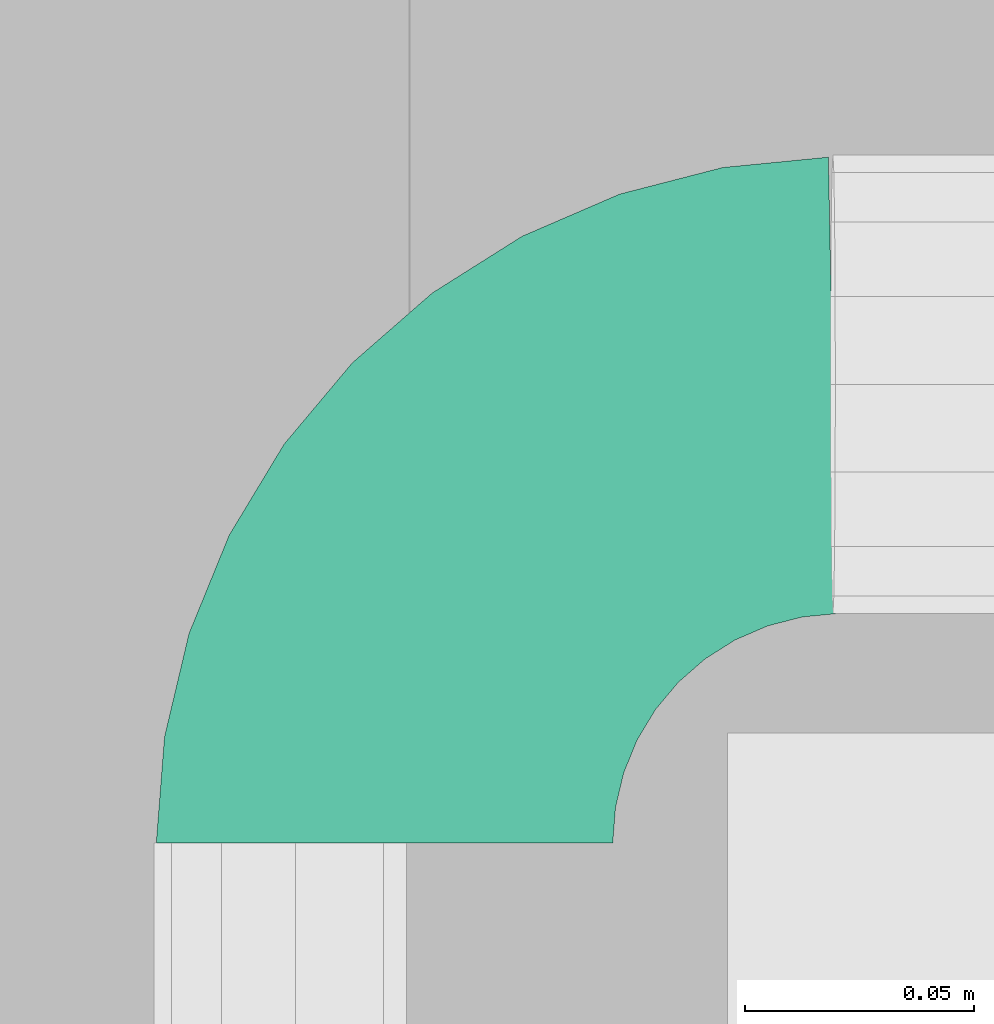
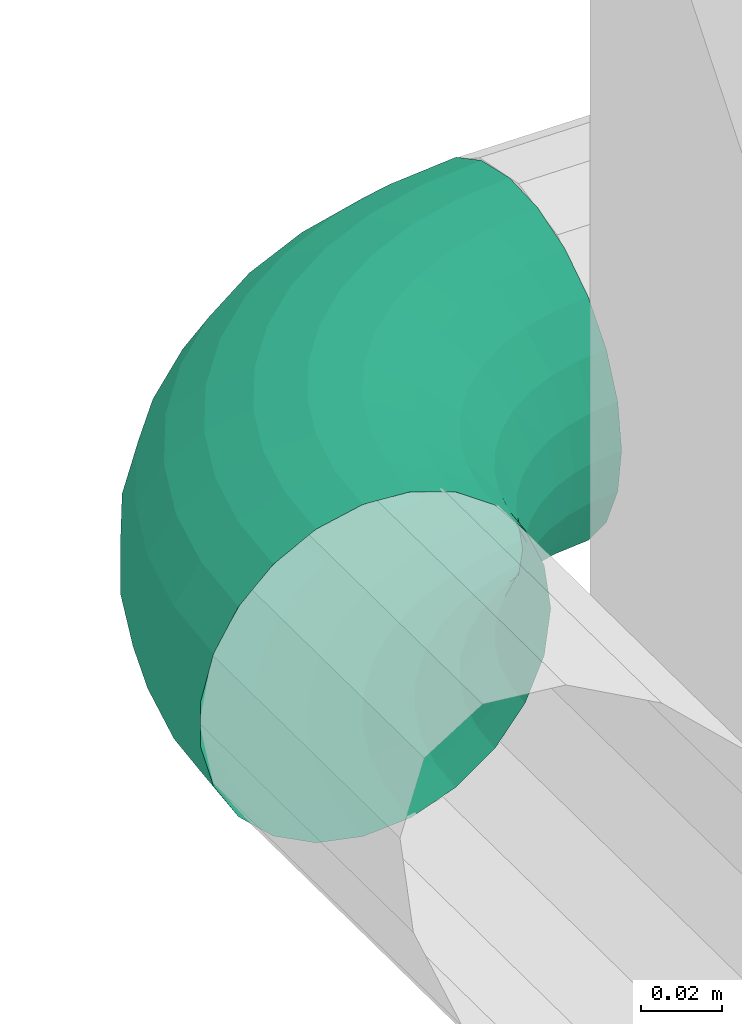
# One storey, part 82 of 106: 1 flow fitting.
"""IFC2X3 building model written with IfcOpenShell, lengths in metres."""

from ifc_helpers import new_model, entity, si_unit, converted_unit, derived_unit, money_unit, direction, frame, origin_with_axes, place, context, subcontext, project, spatial, open_shell, surface_model, material, type_object, element, save


model = new_model("IFC2X3")

# Units and contexts
model_context = context("Model", 3, precision=1e-05, world=origin_with_axes(), true_north=direction((0.0, 1.0)))
body_context = subcontext(model_context, "Body", "Model", "MODEL_VIEW", scale=1.0)
ifc_project = project(units=[si_unit("LENGTHUNIT", "METRE"), si_unit("AREAUNIT", "SQUARE_METRE"), si_unit("VOLUMEUNIT", "CUBIC_METRE"), si_unit("ABSORBEDDOSEUNIT", "GRAY"), si_unit("AMOUNTOFSUBSTANCEUNIT", "MOLE"), si_unit("DOSEEQUIVALENTUNIT", "SIEVERT"), si_unit("ELECTRICCAPACITANCEUNIT", "FARAD"), si_unit("ELECTRICCHARGEUNIT", "COULOMB"), si_unit("ELECTRICCONDUCTANCEUNIT", "SIEMENS"), si_unit("ELECTRICCURRENTUNIT", "AMPERE"), si_unit("ELECTRICRESISTANCEUNIT", "OHM"), si_unit("ELECTRICVOLTAGEUNIT", "VOLT"), si_unit("ENERGYUNIT", "JOULE"), si_unit("FORCEUNIT", "NEWTON"), si_unit("FREQUENCYUNIT", "HERTZ"), si_unit("ILLUMINANCEUNIT", "LUX"), si_unit("INDUCTANCEUNIT", "HENRY"), si_unit("LUMINOUSFLUXUNIT", "LUMEN"), si_unit("LUMINOUSINTENSITYUNIT", "CANDELA"), si_unit("MAGNETICFLUXDENSITYUNIT", "TESLA"), si_unit("MAGNETICFLUXUNIT", "WEBER"), si_unit("MASSUNIT", "GRAM"), converted_unit("PLANEANGLEUNIT", "degree", entity("IfcReal", 0.0174532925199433), si_unit("PLANEANGLEUNIT", "RADIAN"), dimensions=[0, 0, 0, 0, 0, 0, 0]), si_unit("POWERUNIT", "WATT"), si_unit("PRESSUREUNIT", "PASCAL"), si_unit("RADIOACTIVITYUNIT", "BECQUEREL"), si_unit("SOLIDANGLEUNIT", "STERADIAN"), si_unit("THERMODYNAMICTEMPERATUREUNIT", "KELVIN"), si_unit("TIMEUNIT", "SECOND"), derived_unit("ACCELERATIONUNIT", [(si_unit("LENGTHUNIT", "METRE"), 1), (si_unit("TIMEUNIT", "SECOND"), -2)]), derived_unit("ANGULARVELOCITYUNIT", [(converted_unit("PLANEANGLEUNIT", "degree", entity("IfcReal", 0.0174532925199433), si_unit("PLANEANGLEUNIT", "RADIAN"), dimensions=[0, 0, 0, 0, 0, 0, 0]), 1), (si_unit("TIMEUNIT", "SECOND"), -1)]), derived_unit("CURVATUREUNIT", [(converted_unit("PLANEANGLEUNIT", "degree", entity("IfcReal", 0.0174532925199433), si_unit("PLANEANGLEUNIT", "RADIAN"), dimensions=[0, 0, 0, 0, 0, 0, 0]), 1), (si_unit("LENGTHUNIT", "METRE"), -1)]), derived_unit("DYNAMICVISCOSITYUNIT", [(si_unit("PRESSUREUNIT", "PASCAL"), 1), (si_unit("TIMEUNIT", "SECOND"), 1)]), derived_unit("HEATFLUXDENSITYUNIT", [(si_unit("POWERUNIT", "WATT"), 1), (si_unit("LENGTHUNIT", "METRE"), -2)]), derived_unit("HEATINGVALUEUNIT", [(si_unit("ENERGYUNIT", "JOULE"), 1), (si_unit("MASSUNIT", "GRAM"), -1)]), derived_unit("INTEGERCOUNTRATEUNIT", [(si_unit("TIMEUNIT", "SECOND"), -1)]), derived_unit("IONCONCENTRATIONUNIT", [(si_unit("MASSUNIT", "GRAM"), 1), (si_unit("VOLUMEUNIT", "CUBIC_METRE"), -1)]), derived_unit("ISOTHERMALMOISTURECAPACITYUNIT", [(si_unit("VOLUMEUNIT", "CUBIC_METRE"), 1), (si_unit("MASSUNIT", "GRAM"), -1)]), derived_unit("KINEMATICVISCOSITYUNIT", [(si_unit("AREAUNIT", "SQUARE_METRE"), 1), (si_unit("TIMEUNIT", "SECOND"), -1)]), derived_unit("LINEARFORCEUNIT", [(si_unit("FORCEUNIT", "NEWTON"), 1), (si_unit("LENGTHUNIT", "METRE"), -1)]), derived_unit("LINEARMOMENTUNIT", [(si_unit("FORCEUNIT", "NEWTON"), 1), (si_unit("LENGTHUNIT", "METRE"), -1)]), derived_unit("LINEARSTIFFNESSUNIT", [(si_unit("FORCEUNIT", "NEWTON"), 1), (si_unit("LENGTHUNIT", "METRE"), -1)]), derived_unit("LINEARVELOCITYUNIT", [(si_unit("LENGTHUNIT", "METRE"), 1), (si_unit("TIMEUNIT", "SECOND"), -1)]), derived_unit("LUMINOUSINTENSITYDISTRIBUTIONUNIT", [(si_unit("LUMINOUSINTENSITYUNIT", "CANDELA"), 1), (si_unit("LUMINOUSFLUXUNIT", "LUMEN"), -1)]), derived_unit("MASSDENSITYUNIT", [(si_unit("MASSUNIT", "GRAM"), 1), (si_unit("VOLUMEUNIT", "CUBIC_METRE"), -1)]), derived_unit("MASSFLOWRATEUNIT", [(si_unit("MASSUNIT", "GRAM"), 1), (si_unit("TIMEUNIT", "SECOND"), -1)]), derived_unit("MASSPERLENGTHUNIT", [(si_unit("MASSUNIT", "GRAM"), 1), (si_unit("LENGTHUNIT", "METRE"), -1)]), derived_unit("MODULUSOFELASTICITYUNIT", [(si_unit("FORCEUNIT", "NEWTON"), 1), (si_unit("AREAUNIT", "SQUARE_METRE"), -1)]), derived_unit("MODULUSOFLINEARSUBGRADEREACTIONUNIT", [(si_unit("FORCEUNIT", "NEWTON"), 1), (si_unit("LENGTHUNIT", "METRE"), -2)]), derived_unit("MODULUSOFROTATIONALSUBGRADEREACTIONUNIT", [(si_unit("FORCEUNIT", "NEWTON"), 1), (si_unit("LENGTHUNIT", "METRE"), 1)]), derived_unit("MODULUSOFSUBGRADEREACTIONUNIT", [(si_unit("FORCEUNIT", "NEWTON"), 1), (si_unit("VOLUMEUNIT", "CUBIC_METRE"), -1)]), derived_unit("MOISTUREDIFFUSIVITYUNIT", [(si_unit("VOLUMEUNIT", "CUBIC_METRE"), 1), (si_unit("TIMEUNIT", "SECOND"), -1)]), derived_unit("MOLECULARWEIGHTUNIT", [(si_unit("MASSUNIT", "GRAM"), 1), (si_unit("AMOUNTOFSUBSTANCEUNIT", "MOLE"), -1)]), derived_unit("PLANARFORCEUNIT", [(si_unit("FORCEUNIT", "NEWTON"), 1), (si_unit("LENGTHUNIT", "METRE"), -2)]), derived_unit("ROTATIONALFREQUENCYUNIT", [(si_unit("TIMEUNIT", "SECOND"), -1)]), derived_unit("ROTATIONALMASSUNIT", [(si_unit("MASSUNIT", "GRAM"), 1), (si_unit("LENGTHUNIT", "METRE"), 2)]), derived_unit("ROTATIONALSTIFFNESSUNIT", [(si_unit("FORCEUNIT", "NEWTON"), 1), (si_unit("LENGTHUNIT", "METRE"), 1), (converted_unit("PLANEANGLEUNIT", "degree", entity("IfcReal", 0.0174532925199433), si_unit("PLANEANGLEUNIT", "RADIAN"), dimensions=[0, 0, 0, 0, 0, 0, 0]), -1)]), derived_unit("SECTIONAREAINTEGRALUNIT", [(si_unit("LENGTHUNIT", "METRE"), 5)]), derived_unit("SECTIONMODULUSUNIT", [(si_unit("LENGTHUNIT", "METRE"), 3)]), derived_unit("SHEARMODULUSUNIT", [(si_unit("FORCEUNIT", "NEWTON"), 1), (si_unit("AREAUNIT", "SQUARE_METRE"), -1)]), derived_unit("SOUNDPOWERUNIT", [(si_unit("ENERGYUNIT", "JOULE"), 1), (si_unit("TIMEUNIT", "SECOND"), -1)]), derived_unit("SPECIFICHEATCAPACITYUNIT", [(si_unit("FORCEUNIT", "NEWTON"), 1), (si_unit("MASSUNIT", "GRAM"), -1), (si_unit("THERMODYNAMICTEMPERATUREUNIT", "KELVIN"), -1)]), derived_unit("TEMPERATUREGRADIENTUNIT", [(si_unit("THERMODYNAMICTEMPERATUREUNIT", "KELVIN"), 1), (si_unit("LENGTHUNIT", "METRE"), -1)]), derived_unit("THERMALADMITTANCEUNIT", [(si_unit("POWERUNIT", "WATT"), 1), (si_unit("AREAUNIT", "SQUARE_METRE"), -1), (si_unit("THERMODYNAMICTEMPERATUREUNIT", "KELVIN"), -1)]), derived_unit("THERMALCONDUCTANCEUNIT", [(si_unit("POWERUNIT", "WATT"), 1), (si_unit("LENGTHUNIT", "METRE"), -1), (si_unit("THERMODYNAMICTEMPERATUREUNIT", "KELVIN"), -1)]), derived_unit("THERMALEXPANSIONCOEFFICIENTUNIT", [(si_unit("THERMODYNAMICTEMPERATUREUNIT", "KELVIN"), -1)]), derived_unit("THERMALRESISTANCEUNIT", [(si_unit("AREAUNIT", "SQUARE_METRE"), 1), (si_unit("POWERUNIT", "WATT"), -1)]), derived_unit("THERMALTRANSMITTANCEUNIT", [(si_unit("POWERUNIT", "WATT"), 1), (si_unit("AREAUNIT", "SQUARE_METRE"), -1), (si_unit("THERMODYNAMICTEMPERATUREUNIT", "KELVIN"), -1)]), derived_unit("TORQUEUNIT", [(si_unit("FORCEUNIT", "NEWTON"), 1), (si_unit("LENGTHUNIT", "METRE"), 1)]), derived_unit("VAPORPERMEABILITYUNIT", [(si_unit("MASSUNIT", "GRAM"), 1), (si_unit("TIMEUNIT", "SECOND"), -1)]), derived_unit("VOLUMETRICFLOWRATEUNIT", [(si_unit("VOLUMEUNIT", "CUBIC_METRE"), 1), (si_unit("TIMEUNIT", "SECOND"), -1)]), derived_unit("WARPINGCONSTANTUNIT", [(si_unit("LENGTHUNIT", "METRE"), 6)]), derived_unit("WARPINGMOMENTUNIT", [(si_unit("FORCEUNIT", "NEWTON"), 1), (si_unit("LENGTHUNIT", "METRE"), 2)]), money_unit("GBP")], contexts=[model_context])

# Site, building, storey
site_placement = place(None, origin_with_axes())
site = spatial("IfcSite", under=ifc_project, at=site_placement, Name="Site", CompositionType="ELEMENT")
building_placement = place(site_placement, origin_with_axes())
building = spatial("IfcBuilding", under=site, at=building_placement, Name="Building01", CompositionType="ELEMENT")
storey_placement = place(building_placement, origin_with_axes())
storey = spatial("IfcBuildingStorey", under=building, at=storey_placement, Name="GF", CompositionType="ELEMENT", Elevation=0.0)

# Flow fitting
ifc_material = material(Name="M_BSUK_ColdWater")
pipe_fitting_type = type_object("IfcPipeFittingType", Name="M-BmpElbow-DefaultElbow", PredefinedType="BEND")
flow_fitting_placement = place(storey_placement, frame((0.095, 14.70603, 15.487248), z_axis=(-1.0, 0.0, 0.0), x_axis=(0.0, -1.0, 0.0)))
element("IfcFlowFitting", 1, at=flow_fitting_placement, inside=storey, type_object=pipe_fitting_type, material=ifc_material, Name="M-BmpElbow-DefaultElbow", ObjectType="M-BmpElbow-DefaultElbow", context=body_context, shape_type="SurfaceModel", body=[
    surface_model("IfcShellBasedSurfaceModel", [(-0.008009, -0.01349, -0.048768), (0.0, -0.01349, -0.048146), (0.0, 0.0, -0.05), (-0.007723, 0.0, -0.0506), (-0.015826, -0.01349, -0.05062), (-0.015261, 0.0, -0.052386), (-0.023264, -0.01349, -0.053657), (-0.022432, 0.0, -0.055314), (-0.030143, -0.01349, -0.057807), (-0.029065, 0.0, -0.059315), (-0.036298, -0.01349, -0.062969), (-0.035, 0.0, -0.064293), (-0.041582, -0.01349, -0.06902), (-0.040095, 0.0, -0.070127), (-0.045868, -0.01349, -0.075814), (-0.044228, 0.0, -0.076679), (-0.049054, -0.01349, -0.083189), (-0.0473, 0.0, -0.08379), (-0.051061, -0.01349, -0.090968), (-0.049236, 0.0, -0.091291), (-0.051844, -0.01349, -0.098963), (-0.04999, 0.0, -0.099), (-0.008847, -0.025979, -0.043408), (0.0, -0.025979, -0.042721), (-0.017482, -0.025979, -0.045454), (-0.025697, -0.025979, -0.048809), (-0.033296, -0.025979, -0.053392), (-0.040095, -0.025979, -0.059095), (-0.045932, -0.025979, -0.065779), (-0.050667, -0.025979, -0.073284), (-0.054185, -0.025979, -0.081431), (-0.056403, -0.025979, -0.090023), (-0.057268, -0.025979, -0.098855), (-0.010175, -0.036542, -0.034918), (0.0, -0.036542, -0.034128), (-0.020105, -0.036542, -0.037271), (-0.029553, -0.036542, -0.041129), (-0.038291, -0.036542, -0.0464), (-0.046111, -0.036542, -0.052958), (-0.052823, -0.036542, -0.060645), (-0.058268, -0.036542, -0.069276), (-0.062315, -0.036542, -0.078645), (-0.064865, -0.036542, -0.088526), (-0.065859, -0.036542, -0.098683), (-0.011893, -0.044394, -0.023927), (0.0, -0.044394, -0.023003), (-0.0235, -0.044394, -0.026677), (-0.034544, -0.044394, -0.031187), (-0.044758, -0.044394, -0.037348), (-0.053898, -0.044394, -0.045013), (-0.061744, -0.044394, -0.053998), (-0.068109, -0.044394, -0.064087), (-0.072838, -0.044394, -0.075038), (-0.07582, -0.044394, -0.086588), (-0.076981, -0.044394, -0.09846), (-0.013875, -0.048954, -0.011251), (0.0, -0.048954, -0.010173), (-0.027416, -0.048954, -0.014459), (-0.0403, -0.048954, -0.01972), (-0.052216, -0.048954, -0.026908), (-0.062879, -0.048954, -0.035851), (-0.072033, -0.048954, -0.046333), (-0.079458, -0.048954, -0.058103), (-0.084976, -0.048954, -0.070879), (-0.088454, -0.048954, -0.084353), (-0.089809, -0.048954, -0.098204), (-0.015973, -0.049883, 0.002171), (0.0, -0.049883, 0.003412), (-0.031562, -0.049883, -0.001522), (-0.046394, -0.049883, -0.007579), (-0.060113, -0.049883, -0.015854), (-0.072389, -0.049883, -0.026149), (-0.082927, -0.049883, -0.038216), (-0.091475, -0.049883, -0.051767), (-0.097827, -0.049883, -0.066475), (-0.101831, -0.049883, -0.081987), (-0.103391, -0.049883, -0.097932), (-0.018032, -0.047113, 0.015343), (0.0, -0.047113, 0.016744), (-0.035632, -0.047113, 0.011174), (-0.052376, -0.047113, 0.004336), (-0.067863, -0.047113, -0.005006), (-0.081721, -0.047113, -0.016628), (-0.093618, -0.047113, -0.030251), (-0.103268, -0.047113, -0.045548), (-0.110439, -0.047113, -0.062153), (-0.114959, -0.047113, -0.079665), (-0.116721, -0.047113, -0.097665), (-0.0199, -0.040848, 0.027288), (0.0, -0.040848, 0.028834), (-0.039322, -0.040848, 0.022687), (-0.0578, -0.040848, 0.015141), (-0.074891, -0.040848, 0.004831), (-0.090184, -0.040848, -0.007994), (-0.103313, -0.040848, -0.023028), (-0.113962, -0.040848, -0.039909), (-0.121876, -0.040848, -0.058233), (-0.126865, -0.040848, -0.077559), (-0.128808, -0.040848, -0.097424), (-0.021437, -0.031554, 0.03712), (0.0, -0.031554, 0.038786), (-0.042359, -0.031554, 0.032163), (-0.062264, -0.031554, 0.024035), (-0.080675, -0.031554, 0.012929), (-0.09715, -0.031554, -0.000887), (-0.111293, -0.031554, -0.017083), (-0.122765, -0.031554, -0.035268), (-0.13129, -0.031554, -0.055007), (-0.136664, -0.031554, -0.075826), (-0.138758, -0.031554, -0.097225), (-0.022529, -0.01992, 0.04411), (0.0, -0.01992, 0.045861), (-0.044518, -0.01992, 0.038901), (-0.065438, -0.01992, 0.030358), (-0.084788, -0.01992, 0.018686), (-0.102103, -0.01992, 0.004165), (-0.116966, -0.01992, -0.012856), (-0.129023, -0.01992, -0.031968), (-0.137983, -0.01992, -0.052713), (-0.143631, -0.01992, -0.074593), (-0.145831, -0.01992, -0.097083), (-0.023097, -0.006808, 0.04774), (0.0, -0.006808, 0.049534), (-0.045639, -0.006808, 0.042399), (-0.067087, -0.006808, 0.033641), (-0.086924, -0.006808, 0.021675), (-0.104674, -0.006808, 0.006789), (-0.119912, -0.006808, -0.010661), (-0.132273, -0.006808, -0.030254), (-0.141458, -0.006808, -0.051522), (-0.147248, -0.006808, -0.073953), (-0.149504, -0.006808, -0.09701), (-0.023097, 0.006808, 0.04774), (0.0, 0.006808, 0.049534), (-0.045639, 0.006808, 0.042399), (-0.067087, 0.006808, 0.033641), (-0.086924, 0.006808, 0.021675), (-0.104674, 0.006808, 0.006789), (-0.119912, 0.006808, -0.010661), (-0.132273, 0.006808, -0.030254), (-0.141458, 0.006808, -0.051522), (-0.147248, 0.006808, -0.073953), (-0.149504, 0.006808, -0.09701), (-0.022529, 0.01992, 0.04411), (0.0, 0.01992, 0.045861), (-0.044518, 0.01992, 0.038901), (-0.065438, 0.01992, 0.030358), (-0.084788, 0.01992, 0.018686), (-0.102103, 0.01992, 0.004165), (-0.116966, 0.01992, -0.012856), (-0.129023, 0.01992, -0.031968), (-0.137983, 0.01992, -0.052713), (-0.143631, 0.01992, -0.074593), (-0.145831, 0.01992, -0.097083), (-0.021437, 0.031554, 0.03712), (0.0, 0.031554, 0.038786), (-0.042359, 0.031554, 0.032163), (-0.062264, 0.031554, 0.024035), (-0.080675, 0.031554, 0.012929), (-0.09715, 0.031554, -0.000887), (-0.111293, 0.031554, -0.017083), (-0.122765, 0.031554, -0.035268), (-0.13129, 0.031554, -0.055007), (-0.136664, 0.031554, -0.075826), (-0.138758, 0.031554, -0.097225), (-0.0199, 0.040848, 0.027288), (0.0, 0.040848, 0.028834), (-0.039322, 0.040848, 0.022687), (-0.0578, 0.040848, 0.015141), (-0.074891, 0.040848, 0.004831), (-0.090184, 0.040848, -0.007994), (-0.103313, 0.040848, -0.023028), (-0.113962, 0.040848, -0.039909), (-0.121876, 0.040848, -0.058233), (-0.126865, 0.040848, -0.077559), (-0.128808, 0.040848, -0.097424), (-0.018032, 0.047113, 0.015343), (0.0, 0.047113, 0.016744), (-0.035632, 0.047113, 0.011174), (-0.052376, 0.047113, 0.004336), (-0.067863, 0.047113, -0.005006), (-0.081721, 0.047113, -0.016628), (-0.093618, 0.047113, -0.030251), (-0.103268, 0.047113, -0.045548), (-0.110439, 0.047113, -0.062153), (-0.114959, 0.047113, -0.079665), (-0.116721, 0.047113, -0.097665), (-0.015973, 0.049883, 0.002171), (0.0, 0.049883, 0.003412), (-0.031562, 0.049883, -0.001522), (-0.046394, 0.049883, -0.007579), (-0.060113, 0.049883, -0.015854), (-0.072389, 0.049883, -0.026149), (-0.082927, 0.049883, -0.038216), (-0.091475, 0.049883, -0.051767), (-0.097827, 0.049883, -0.066475), (-0.101831, 0.049883, -0.081987), (-0.103391, 0.049883, -0.097932), (-0.013875, 0.048954, -0.011251), (0.0, 0.048954, -0.010173), (-0.027416, 0.048954, -0.014459), (-0.0403, 0.048954, -0.01972), (-0.052216, 0.048954, -0.026908), (-0.062879, 0.048954, -0.035851), (-0.072033, 0.048954, -0.046333), (-0.079458, 0.048954, -0.058103), (-0.084976, 0.048954, -0.070879), (-0.088454, 0.048954, -0.084353), (-0.089809, 0.048954, -0.098204), (-0.011893, 0.044394, -0.023927), (0.0, 0.044394, -0.023003), (-0.0235, 0.044394, -0.026677), (-0.034544, 0.044394, -0.031187), (-0.044758, 0.044394, -0.037348), (-0.053898, 0.044394, -0.045013), (-0.061744, 0.044394, -0.053998), (-0.068109, 0.044394, -0.064087), (-0.072838, 0.044394, -0.075038), (-0.07582, 0.044394, -0.086588), (-0.076981, 0.044394, -0.09846), (-0.010175, 0.036542, -0.034918), (0.0, 0.036542, -0.034128), (-0.020105, 0.036542, -0.037271), (-0.029553, 0.036542, -0.041129), (-0.038291, 0.036542, -0.0464), (-0.046111, 0.036542, -0.052958), (-0.052823, 0.036542, -0.060645), (-0.058268, 0.036542, -0.069276), (-0.062315, 0.036542, -0.078645), (-0.064865, 0.036542, -0.088526), (-0.065859, 0.036542, -0.098683), (-0.008847, 0.025979, -0.043408), (0.0, 0.025979, -0.042721), (-0.017482, 0.025979, -0.045454), (-0.025697, 0.025979, -0.048809), (-0.033296, 0.025979, -0.053392), (-0.040095, 0.025979, -0.059095), (-0.045932, 0.025979, -0.065779), (-0.050667, 0.025979, -0.073284), (-0.054185, 0.025979, -0.081431), (-0.056403, 0.025979, -0.090023), (-0.057268, 0.025979, -0.098855), (-0.008009, 0.01349, -0.048768), (0.0, 0.01349, -0.048146), (-0.015826, 0.01349, -0.05062), (-0.023264, 0.01349, -0.053657), (-0.030143, 0.01349, -0.057807), (-0.036298, 0.01349, -0.062969), (-0.041582, 0.01349, -0.06902), (-0.045868, 0.01349, -0.075814), (-0.049054, 0.01349, -0.083189), (-0.051061, 0.01349, -0.090968), (-0.051844, 0.01349, -0.098963)], [open_shell([[[0, 1, 2, 3]], [[4, 0, 3, 5]], [[6, 4, 5, 7]], [[8, 6, 7, 9]], [[10, 8, 9, 11]], [[12, 10, 11, 13]], [[14, 12, 13, 15]], [[16, 14, 15, 17]], [[18, 16, 17, 19]], [[20, 18, 19, 21]], [[22, 23, 1, 0]], [[24, 22, 0, 4]], [[25, 24, 4, 6]], [[26, 25, 6, 8]], [[27, 26, 8, 10]], [[28, 27, 10, 12]], [[29, 28, 12, 14]], [[30, 29, 14, 16]], [[31, 30, 16, 18]], [[32, 31, 18, 20]], [[33, 34, 23, 22]], [[35, 33, 22, 24]], [[36, 35, 24, 25]], [[37, 36, 25, 26]], [[38, 37, 26, 27]], [[39, 38, 27, 28]], [[40, 39, 28, 29]], [[41, 40, 29, 30]], [[42, 41, 30, 31]], [[43, 42, 31, 32]], [[44, 45, 34, 33]], [[46, 44, 33, 35]], [[47, 46, 35, 36]], [[48, 47, 36, 37]], [[49, 48, 37, 38]], [[50, 49, 38, 39]], [[51, 50, 39, 40]], [[52, 51, 40, 41]], [[53, 52, 41, 42]], [[54, 53, 42, 43]], [[55, 56, 45, 44]], [[57, 55, 44, 46]], [[58, 57, 46, 47]], [[59, 58, 47, 48]], [[60, 59, 48, 49]], [[61, 60, 49, 50]], [[62, 61, 50, 51]], [[63, 62, 51, 52]], [[64, 63, 52, 53]], [[65, 64, 53, 54]], [[66, 67, 56, 55]], [[68, 66, 55, 57]], [[69, 68, 57, 58]], [[70, 69, 58, 59]], [[71, 70, 59, 60]], [[72, 71, 60, 61]], [[73, 72, 61, 62]], [[74, 73, 62, 63]], [[75, 74, 63, 64]], [[76, 75, 64, 65]], [[77, 78, 67, 66]], [[79, 77, 66, 68]], [[80, 79, 68, 69]], [[81, 80, 69, 70]], [[82, 81, 70, 71]], [[83, 82, 71, 72]], [[84, 83, 72, 73]], [[85, 84, 73, 74]], [[86, 85, 74, 75]], [[87, 86, 75, 76]], [[88, 89, 78, 77]], [[90, 88, 77, 79]], [[91, 90, 79, 80]], [[92, 91, 80, 81]], [[93, 92, 81, 82]], [[94, 93, 82, 83]], [[95, 94, 83, 84]], [[96, 95, 84, 85]], [[97, 96, 85, 86]], [[98, 97, 86, 87]], [[99, 100, 89, 88]], [[101, 99, 88, 90]], [[102, 101, 90, 91]], [[103, 102, 91, 92]], [[104, 103, 92, 93]], [[105, 104, 93, 94]], [[106, 105, 94, 95]], [[107, 106, 95, 96]], [[108, 107, 96, 97]], [[109, 108, 97, 98]], [[110, 111, 100, 99]], [[112, 110, 99, 101]], [[113, 112, 101, 102]], [[114, 113, 102, 103]], [[115, 114, 103, 104]], [[116, 115, 104, 105]], [[117, 116, 105, 106]], [[118, 117, 106, 107]], [[119, 118, 107, 108]], [[120, 119, 108, 109]], [[121, 122, 111, 110]], [[123, 121, 110, 112]], [[124, 123, 112, 113]], [[125, 124, 113, 114]], [[126, 125, 114, 115]], [[127, 126, 115, 116]], [[128, 127, 116, 117]], [[129, 128, 117, 118]], [[130, 129, 118, 119]], [[131, 130, 119, 120]], [[132, 133, 122, 121]], [[134, 132, 121, 123]], [[135, 134, 123, 124]], [[136, 135, 124, 125]], [[137, 136, 125, 126]], [[138, 137, 126, 127]], [[139, 138, 127, 128]], [[140, 139, 128, 129]], [[141, 140, 129, 130]], [[142, 141, 130, 131]], [[143, 144, 133, 132]], [[145, 143, 132, 134]], [[146, 145, 134, 135]], [[147, 146, 135, 136]], [[148, 147, 136, 137]], [[149, 148, 137, 138]], [[150, 149, 138, 139]], [[151, 150, 139, 140]], [[152, 151, 140, 141]], [[153, 152, 141, 142]], [[154, 155, 144, 143]], [[156, 154, 143, 145]], [[157, 156, 145, 146]], [[158, 157, 146, 147]], [[159, 158, 147, 148]], [[160, 159, 148, 149]], [[161, 160, 149, 150]], [[162, 161, 150, 151]], [[163, 162, 151, 152]], [[164, 163, 152, 153]], [[165, 166, 155, 154]], [[167, 165, 154, 156]], [[168, 167, 156, 157]], [[169, 168, 157, 158]], [[170, 169, 158, 159]], [[171, 170, 159, 160]], [[172, 171, 160, 161]], [[173, 172, 161, 162]], [[174, 173, 162, 163]], [[175, 174, 163, 164]], [[176, 177, 166, 165]], [[178, 176, 165, 167]], [[179, 178, 167, 168]], [[180, 179, 168, 169]], [[181, 180, 169, 170]], [[182, 181, 170, 171]], [[183, 182, 171, 172]], [[184, 183, 172, 173]], [[185, 184, 173, 174]], [[186, 185, 174, 175]], [[187, 188, 177, 176]], [[189, 187, 176, 178]], [[190, 189, 178, 179]], [[191, 190, 179, 180]], [[192, 191, 180, 181]], [[193, 192, 181, 182]], [[194, 193, 182, 183]], [[195, 194, 183, 184]], [[196, 195, 184, 185]], [[197, 196, 185, 186]], [[198, 199, 188, 187]], [[200, 198, 187, 189]], [[201, 200, 189, 190]], [[202, 201, 190, 191]], [[203, 202, 191, 192]], [[204, 203, 192, 193]], [[205, 204, 193, 194]], [[206, 205, 194, 195]], [[207, 206, 195, 196]], [[208, 207, 196, 197]], [[209, 210, 199, 198]], [[211, 209, 198, 200]], [[212, 211, 200, 201]], [[213, 212, 201, 202]], [[214, 213, 202, 203]], [[215, 214, 203, 204]], [[216, 215, 204, 205]], [[217, 216, 205, 206]], [[218, 217, 206, 207]], [[219, 218, 207, 208]], [[220, 221, 210, 209]], [[222, 220, 209, 211]], [[223, 222, 211, 212]], [[224, 223, 212, 213]], [[225, 224, 213, 214]], [[226, 225, 214, 215]], [[227, 226, 215, 216]], [[228, 227, 216, 217]], [[229, 228, 217, 218]], [[230, 229, 218, 219]], [[231, 232, 221, 220]], [[233, 231, 220, 222]], [[234, 233, 222, 223]], [[235, 234, 223, 224]], [[236, 235, 224, 225]], [[237, 236, 225, 226]], [[238, 237, 226, 227]], [[239, 238, 227, 228]], [[240, 239, 228, 229]], [[241, 240, 229, 230]], [[242, 243, 232, 231]], [[244, 242, 231, 233]], [[245, 244, 233, 234]], [[246, 245, 234, 235]], [[247, 246, 235, 236]], [[248, 247, 236, 237]], [[249, 248, 237, 238]], [[250, 249, 238, 239]], [[251, 250, 239, 240]], [[252, 251, 240, 241]], [[3, 2, 243, 242]], [[5, 3, 242, 244]], [[7, 5, 244, 245]], [[9, 7, 245, 246]], [[11, 9, 246, 247]], [[13, 11, 247, 248]], [[15, 13, 248, 249]], [[17, 15, 249, 250]], [[19, 17, 250, 251]], [[21, 19, 251, 252]]])]),
])

save(model, "model.ifc")
